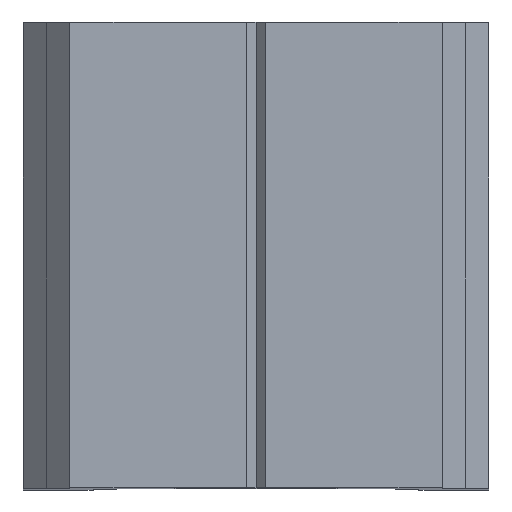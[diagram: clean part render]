
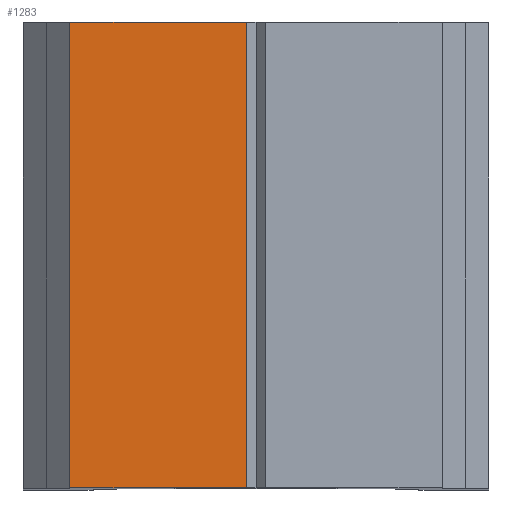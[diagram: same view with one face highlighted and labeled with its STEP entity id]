
A CAD part, top view. The second image highlights one B-rep face of the part: STEP entity #1283.
In plain terms, the highlighted planar face has unit normal (0, 0, 1).
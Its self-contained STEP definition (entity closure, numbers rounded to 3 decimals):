
#473=DIRECTION('',(0.,1.,0.));
#474=VECTOR('',#473,10.);
#475=CARTESIAN_POINT('',(-0.2,0.,0.));
#476=LINE('',#475,#474);
#477=DIRECTION('',(-1.,0.,0.));
#478=VECTOR('',#477,3.8);
#479=CARTESIAN_POINT('',(-0.2,0.,0.));
#480=LINE('',#479,#478);
#481=DIRECTION('',(1.,0.,0.));
#482=VECTOR('',#481,3.8);
#483=CARTESIAN_POINT('',(-4.,10.,0.));
#484=LINE('',#483,#482);
#497=DIRECTION('',(0.,1.,0.));
#498=VECTOR('',#497,10.);
#499=CARTESIAN_POINT('',(-4.,0.,0.));
#500=LINE('',#499,#498);
#859=CARTESIAN_POINT('',(-4.,0.,0.));
#861=VERTEX_POINT('',#859);
#911=CARTESIAN_POINT('',(-4.,10.,0.));
#913=VERTEX_POINT('',#911);
#938=CARTESIAN_POINT('',(-0.2,0.,0.));
#940=VERTEX_POINT('',#938);
#944=CARTESIAN_POINT('',(-0.2,10.,0.));
#946=VERTEX_POINT('',#944);
#1271=CARTESIAN_POINT('',(0.,0.,0.));
#1272=DIRECTION('',(0.,0.,1.));
#1273=DIRECTION('',(1.,0.,0.));
#1274=AXIS2_PLACEMENT_3D('',#1271,#1272,#1273);
#1275=PLANE('',#1274);
#1276=ORIENTED_EDGE('',*,*,#1263,.F.);
#1277=ORIENTED_EDGE('',*,*,#1062,.T.);
#1279=ORIENTED_EDGE('',*,*,#1278,.T.);
#1280=ORIENTED_EDGE('',*,*,#1099,.T.);
#1281=EDGE_LOOP('',(#1276,#1277,#1279,#1280));
#1282=FACE_OUTER_BOUND('',#1281,.F.);
#1283=ADVANCED_FACE('',(#1282),#1275,.T.);
#1062=EDGE_CURVE('',#940,#861,#480,.T.);
#1099=EDGE_CURVE('',#913,#946,#484,.T.);
#1263=EDGE_CURVE('',#940,#946,#476,.T.);
#1278=EDGE_CURVE('',#861,#913,#500,.T.);
